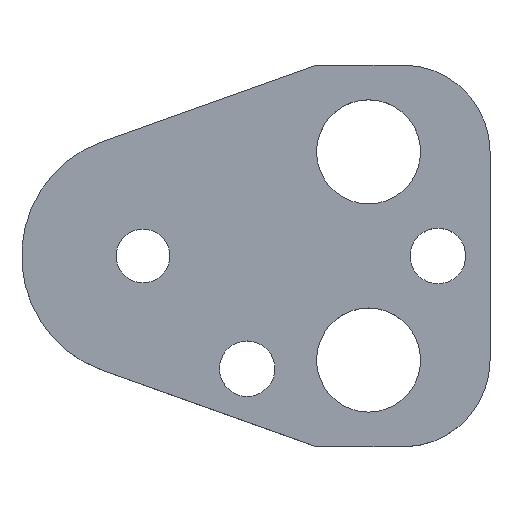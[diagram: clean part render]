
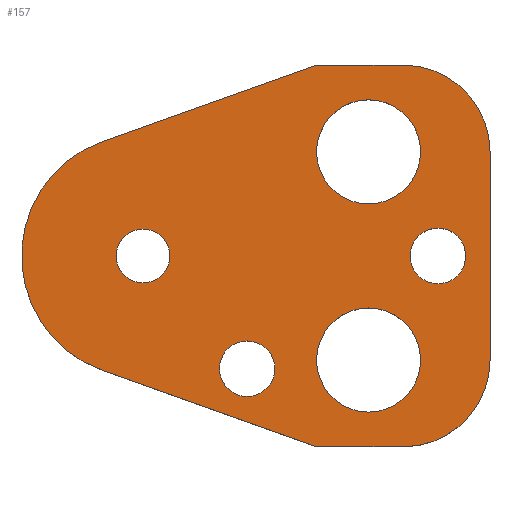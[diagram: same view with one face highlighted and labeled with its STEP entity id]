
A CAD part, top view. The second image highlights one B-rep face of the part: STEP entity #157.
In plain terms, the highlighted planar face has unit normal (0, 0, 1).
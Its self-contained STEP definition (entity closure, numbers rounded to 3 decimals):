
#103=FACE_BOUND('',#207,.T.);
#104=FACE_BOUND('',#208,.T.);
#105=FACE_BOUND('',#209,.T.);
#106=FACE_BOUND('',#210,.T.);
#107=FACE_BOUND('',#211,.T.);
#108=FACE_BOUND('',#212,.T.);
#122=CIRCLE('',#480,10.);
#124=CIRCLE('',#484,10.);
#127=CIRCLE('',#490,14.);
#138=CIRCLE('',#503,3.2);
#139=CIRCLE('',#504,3.2);
#140=CIRCLE('',#505,6.);
#141=CIRCLE('',#506,6.);
#142=CIRCLE('',#507,6.);
#143=CIRCLE('',#508,6.);
#144=CIRCLE('',#509,3.2);
#145=CIRCLE('',#510,3.2);
#146=CIRCLE('',#511,3.1);
#147=CIRCLE('',#512,3.1);
#157=ADVANCED_FACE('',(#103,#104,#105,#106,#107,#108),#174,.T.);
#174=PLANE('',#513);
#207=EDGE_LOOP('',(#273,#274,#275,#276,#277,#278,#279,#280));
#208=EDGE_LOOP('',(#281,#282));
#209=EDGE_LOOP('',(#283,#284));
#210=EDGE_LOOP('',(#285,#286));
#211=EDGE_LOOP('',(#287,#288));
#212=EDGE_LOOP('',(#289,#290));
#273=ORIENTED_EDGE('',*,*,#368,.T.);
#274=ORIENTED_EDGE('',*,*,#372,.T.);
#275=ORIENTED_EDGE('',*,*,#375,.T.);
#276=ORIENTED_EDGE('',*,*,#378,.T.);
#277=ORIENTED_EDGE('',*,*,#381,.T.);
#278=ORIENTED_EDGE('',*,*,#384,.T.);
#279=ORIENTED_EDGE('',*,*,#387,.T.);
#280=ORIENTED_EDGE('',*,*,#390,.T.);
#281=ORIENTED_EDGE('',*,*,#401,.T.);
#282=ORIENTED_EDGE('',*,*,#402,.T.);
#283=ORIENTED_EDGE('',*,*,#403,.T.);
#284=ORIENTED_EDGE('',*,*,#404,.T.);
#285=ORIENTED_EDGE('',*,*,#405,.T.);
#286=ORIENTED_EDGE('',*,*,#406,.T.);
#287=ORIENTED_EDGE('',*,*,#407,.T.);
#288=ORIENTED_EDGE('',*,*,#408,.T.);
#289=ORIENTED_EDGE('',*,*,#409,.T.);
#290=ORIENTED_EDGE('',*,*,#410,.T.);
#332=VERTEX_POINT('',#649);
#333=VERTEX_POINT('',#651);
#336=VERTEX_POINT('',#658);
#338=VERTEX_POINT('',#664);
#340=VERTEX_POINT('',#670);
#342=VERTEX_POINT('',#676);
#344=VERTEX_POINT('',#682);
#346=VERTEX_POINT('',#688);
#357=VERTEX_POINT('',#717);
#358=VERTEX_POINT('',#718);
#359=VERTEX_POINT('',#721);
#360=VERTEX_POINT('',#722);
#361=VERTEX_POINT('',#725);
#362=VERTEX_POINT('',#726);
#363=VERTEX_POINT('',#729);
#364=VERTEX_POINT('',#730);
#365=VERTEX_POINT('',#733);
#366=VERTEX_POINT('',#734);
#368=EDGE_CURVE('',#333,#332,#422,.T.);
#372=EDGE_CURVE('',#332,#336,#426,.T.);
#375=EDGE_CURVE('',#336,#338,#122,.T.);
#378=EDGE_CURVE('',#338,#340,#430,.T.);
#381=EDGE_CURVE('',#340,#342,#124,.T.);
#384=EDGE_CURVE('',#342,#344,#434,.T.);
#387=EDGE_CURVE('',#344,#346,#437,.T.);
#390=EDGE_CURVE('',#346,#333,#127,.T.);
#401=EDGE_CURVE('',#357,#358,#138,.T.);
#402=EDGE_CURVE('',#358,#357,#139,.T.);
#403=EDGE_CURVE('',#359,#360,#140,.T.);
#404=EDGE_CURVE('',#360,#359,#141,.T.);
#405=EDGE_CURVE('',#361,#362,#142,.T.);
#406=EDGE_CURVE('',#362,#361,#143,.T.);
#407=EDGE_CURVE('',#363,#364,#144,.T.);
#408=EDGE_CURVE('',#364,#363,#145,.T.);
#409=EDGE_CURVE('',#365,#366,#146,.T.);
#410=EDGE_CURVE('',#366,#365,#147,.T.);
#422=LINE('',#650,#450);
#426=LINE('',#659,#454);
#430=LINE('',#671,#458);
#434=LINE('',#683,#462);
#437=LINE('',#689,#465);
#450=VECTOR('',#527,1.);
#454=VECTOR('',#533,1.);
#458=VECTOR('',#545,1.);
#462=VECTOR('',#557,1.);
#465=VECTOR('',#562,1.);
#480=AXIS2_PLACEMENT_3D('',#665,#538,#539);
#484=AXIS2_PLACEMENT_3D('',#677,#550,#551);
#490=AXIS2_PLACEMENT_3D('',#693,#568,#569);
#503=AXIS2_PLACEMENT_3D('',#716,#594,#595);
#504=AXIS2_PLACEMENT_3D('',#719,#596,#597);
#505=AXIS2_PLACEMENT_3D('',#720,#598,#599);
#506=AXIS2_PLACEMENT_3D('',#723,#600,#601);
#507=AXIS2_PLACEMENT_3D('',#724,#602,#603);
#508=AXIS2_PLACEMENT_3D('',#727,#604,#605);
#509=AXIS2_PLACEMENT_3D('',#728,#606,#607);
#510=AXIS2_PLACEMENT_3D('',#731,#608,#609);
#511=AXIS2_PLACEMENT_3D('',#732,#610,#611);
#512=AXIS2_PLACEMENT_3D('',#735,#612,#613);
#513=AXIS2_PLACEMENT_3D('',#736,#614,#615);
#527=DIRECTION('',(0.942,-0.336,0.));
#533=DIRECTION('',(1.,0.,0.));
#538=DIRECTION('',(0.,0.,1.));
#539=DIRECTION('',(-0.707,0.707,0.));
#545=DIRECTION('',(0.,1.,0.));
#550=DIRECTION('',(0.,0.,1.));
#551=DIRECTION('',(-0.707,-0.707,0.));
#557=DIRECTION('',(-1.,0.,0.));
#562=DIRECTION('',(-0.942,-0.336,0.));
#568=DIRECTION('',(0.,0.,1.));
#569=DIRECTION('',(1.,0.,0.));
#594=DIRECTION('',(0.,0.,-1.));
#595=DIRECTION('',(-1.,0.,0.));
#596=DIRECTION('',(0.,0.,-1.));
#597=DIRECTION('',(1.,0.,0.));
#598=DIRECTION('',(0.,0.,-1.));
#599=DIRECTION('',(-1.,0.,0.));
#600=DIRECTION('',(0.,0.,-1.));
#601=DIRECTION('',(1.,0.,0.));
#602=DIRECTION('',(0.,0.,-1.));
#603=DIRECTION('',(-1.,0.,0.));
#604=DIRECTION('',(0.,0.,-1.));
#605=DIRECTION('',(1.,0.,0.));
#606=DIRECTION('',(0.,0.,-1.));
#607=DIRECTION('',(-1.,0.,0.));
#608=DIRECTION('',(0.,0.,-1.));
#609=DIRECTION('',(1.,0.,0.));
#610=DIRECTION('',(0.,0.,-1.));
#611=DIRECTION('',(-1.,0.,0.));
#612=DIRECTION('',(0.,0.,-1.));
#613=DIRECTION('',(1.,0.,0.));
#614=DIRECTION('',(0.,0.,1.));
#615=DIRECTION('',(0.942,-0.336,0.));
#649=CARTESIAN_POINT('',(20.,-22.,6.));
#650=CARTESIAN_POINT('',(20.,-22.,6.));
#651=CARTESIAN_POINT('',(-4.704,-13.186,6.));
#658=CARTESIAN_POINT('',(30.,-22.,6.));
#659=CARTESIAN_POINT('',(20.,-22.,6.));
#664=CARTESIAN_POINT('',(40.,-12.,6.));
#665=CARTESIAN_POINT('',(30.,-12.,6.));
#670=CARTESIAN_POINT('',(40.,12.,6.));
#671=CARTESIAN_POINT('',(40.,12.,6.));
#676=CARTESIAN_POINT('',(30.,22.,6.));
#677=CARTESIAN_POINT('',(30.,12.,6.));
#682=CARTESIAN_POINT('',(20.,22.,6.));
#683=CARTESIAN_POINT('',(20.,22.,6.));
#688=CARTESIAN_POINT('',(-4.704,13.186,6.));
#689=CARTESIAN_POINT('',(20.,22.,6.));
#693=CARTESIAN_POINT('',(0.,0.,6.));
#716=CARTESIAN_POINT('',(34.,0.,6.));
#717=CARTESIAN_POINT('',(34.,3.2,6.));
#718=CARTESIAN_POINT('',(34.,-3.2,6.));
#719=CARTESIAN_POINT('',(34.,0.,6.));
#720=CARTESIAN_POINT('',(26.,12.,6.));
#721=CARTESIAN_POINT('',(26.,18.,6.));
#722=CARTESIAN_POINT('',(26.,6.,6.));
#723=CARTESIAN_POINT('',(26.,12.,6.));
#724=CARTESIAN_POINT('',(26.,-12.,6.));
#725=CARTESIAN_POINT('',(26.,-6.,6.));
#726=CARTESIAN_POINT('',(26.,-18.,6.));
#727=CARTESIAN_POINT('',(26.,-12.,6.));
#728=CARTESIAN_POINT('',(12.,-13.,6.));
#729=CARTESIAN_POINT('',(12.,-9.8,6.));
#730=CARTESIAN_POINT('',(12.,-16.2,6.));
#731=CARTESIAN_POINT('',(12.,-13.,6.));
#732=CARTESIAN_POINT('',(0.,0.,6.));
#733=CARTESIAN_POINT('',(0.,3.1,6.));
#734=CARTESIAN_POINT('',(0.,-3.1,6.));
#735=CARTESIAN_POINT('',(0.,0.,6.));
#736=CARTESIAN_POINT('',(-4.704,-13.186,6.));
